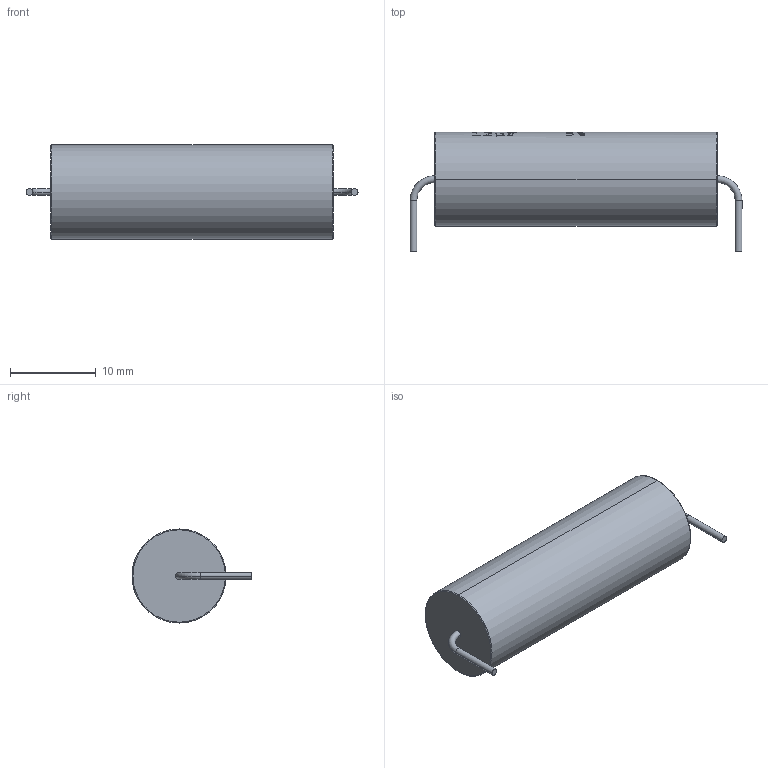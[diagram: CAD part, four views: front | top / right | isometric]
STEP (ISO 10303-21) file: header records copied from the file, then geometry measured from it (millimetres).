
FILE_DESCRIPTION (( 'STEP AP214' ), '1' );
FILE_NAME ('User Library-Capacitor Axial 15.STEP', '2013-10-01T10:36:27', ( 'Windows User' ), ( '' ), 'SwSTEP 2.0', 'SolidWorks 2013', '' );
FILE_SCHEMA (( 'AUTOMOTIVE_DESIGN' ));
Length unit declared in the file: millimetre
Products named in the file (1): User Library-Capacitor Axial 15
Bounding box: 38.8 x 14 x 11 mm (x, y, z)
Volume: 3145.9 mm3; surface area: 1377.4 mm2
Topology: 1 solids, 1 shells, 38 faces, 355 edges, 341 vertices
Faces by surface type: cylinder 26, torus 8, plane 4
Entity records: 6048 total; most frequent: CARTESIAN_POINT 3215, ORIENTED_EDGE 710, EDGE_CURVE 355, VERTEX_POINT 341, DIRECTION 272, B_SPLINE_CURVE_WITH_KNOTS 224, AXIS2_PLACEMENT_3D 102, VECTOR 68
